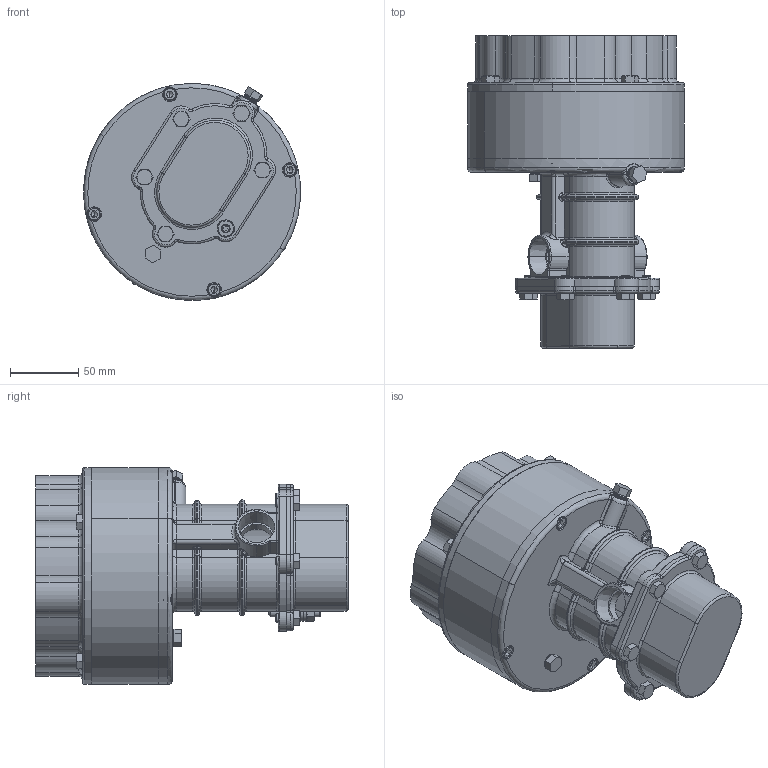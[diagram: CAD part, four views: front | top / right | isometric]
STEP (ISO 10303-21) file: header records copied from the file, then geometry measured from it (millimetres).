
FILE_DESCRIPTION (( 'STEP AP214' ), '1' );
FILE_NAME ('E25M FNPT IEC90 NO MTR.STEP', '2025-07-11T14:30:33', ( '' ), ( '' ), 'SwSTEP 2.0', 'SolidWorks 2024', '' );
FILE_SCHEMA (( 'AUTOMOTIVE_DESIGN' ));
Length unit declared in the file: millimetre
Products named in the file (1): E25M FNPT IEC90 NO MTR
Bounding box: 159.39 x 229.53 x 159.45 mm (x, y, z)
Volume: 772193.3 mm3; surface area: 283542.8 mm2
Topology: 27 solids, 27 shells, 1551 faces, 3944 edges, 2437 vertices
Faces by surface type: cylinder 545, plane 382, torus 291, cone 252, bspline 51, sphere 30
Entity records: 56695 total; most frequent: CARTESIAN_POINT 19081, DIRECTION 8134, ORIENTED_EDGE 7776, EDGE_CURVE 3888, AXIS2_PLACEMENT_3D 3387, VERTEX_POINT 2437, CIRCLE 1886, EDGE_LOOP 1677
